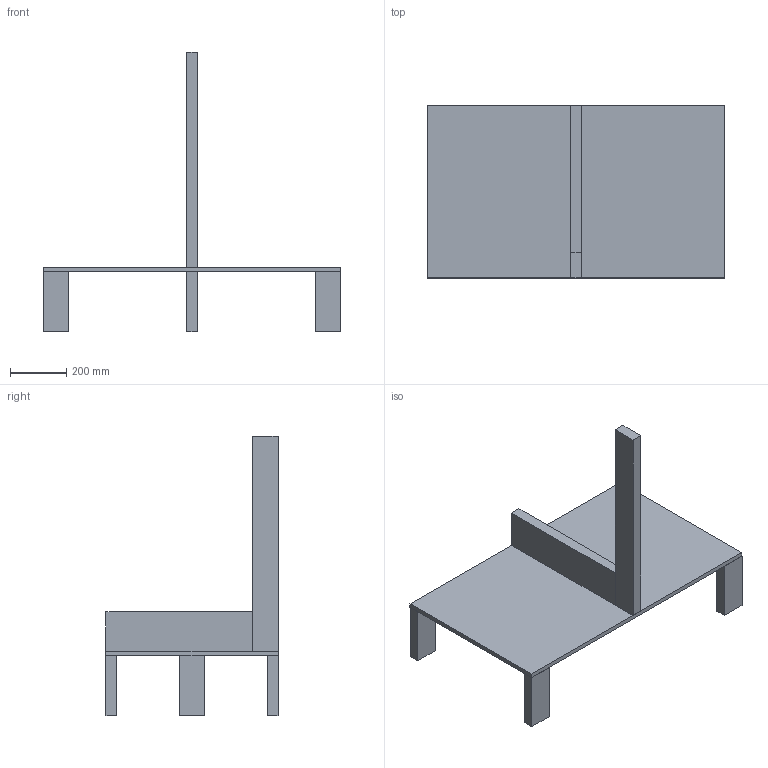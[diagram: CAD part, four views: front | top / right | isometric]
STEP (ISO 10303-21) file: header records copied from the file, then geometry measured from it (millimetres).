
FILE_DESCRIPTION(('FreeCAD Model'),'2;1');
FILE_NAME('Open CASCADE Shape Model','2023-09-14T18:13:51',('Author'),( ''),'Open CASCADE STEP processor 7.6','FreeCAD','Unknown');
FILE_SCHEMA(('AUTOMOTIVE_DESIGN { 1 0 10303 214 1 1 1 1 }'));
Length unit declared in the file: millimetre
Products named in the file (9): platformassm; platform_001; platform leg_001; platform leg_002; platform leg_003; platform leg_004; platform leg_005; marking pole_001; divider board_001
Assembly tree (8 placements, depth 2):
  platformassm
    platform_001
    platform leg_001
    platform leg_002
    platform leg_003
    platform leg_004
    platform leg_005
    marking pole_001
    divider board_001
Bounding box: 1054.1 x 609.6 x 990.6 mm (x, y, z)
Volume: 19155881 mm3; surface area: 2038134.7 mm2
Topology: 8 solids, 8 shells, 48 faces, 96 edges, 64 vertices
Faces by surface type: plane 48
Entity records: 2693 total; most frequent: CARTESIAN_POINT 409, DIRECTION 402, LINE 288, VECTOR 288, ORIENTED_EDGE 192, PCURVE 192, DEFINITIONAL_REPRESENTATION 192, EDGE_CURVE 96
